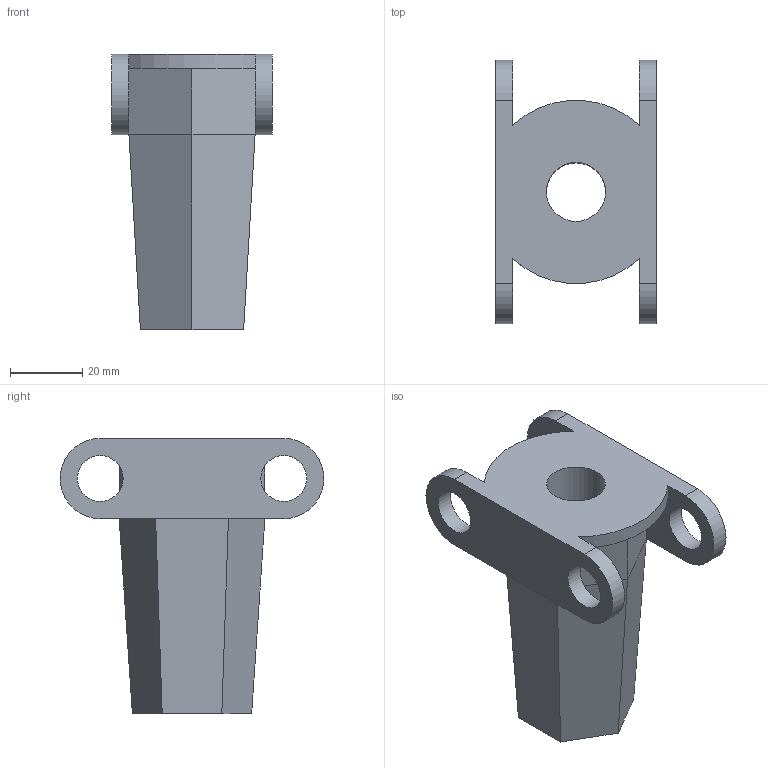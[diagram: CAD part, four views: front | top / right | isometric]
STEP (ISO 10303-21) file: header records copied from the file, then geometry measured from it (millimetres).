
FILE_DESCRIPTION(/* description */ (''),/* implementation_level */ '2;1');
FILE_NAME(/* name */ 'C:\001_Work\Designs\HPA\HPA-0750.stp',/* time_stamp */ '2015-10-20T09:01:33-04:00',/* author */ ('rramoutar'),/* organization */ (''),/* preprocessor_version */ 'ST-DEVELOPER v15.6',/* originating_system */ 'Autodesk Inventor 2015',/* authorisation */ '');
FILE_SCHEMA (('AUTOMOTIVE_DESIGN { 1 0 10303 214 3 1 1 }'));
Length unit declared in the file: inch
Products named in the file (1): A-24734-2 HPA-0750
Bounding box: 44.45 x 73.03 x 76.2 mm (x, y, z)
Volume: 69122.9 mm3; surface area: 20524.5 mm2
Topology: 1 solids, 1 shells, 33 faces, 84 edges, 53 vertices
Faces by surface type: plane 22, cylinder 11
Full cylindrical faces by diameter (mm): 12.7 x4, 16.307 x1
Entity records: 1000 total; most frequent: DIRECTION 168, CARTESIAN_POINT 164, ORIENTED_EDGE 156, EDGE_CURVE 78, LINE 56, VECTOR 56, AXIS2_PLACEMENT_3D 56, VERTEX_POINT 52
